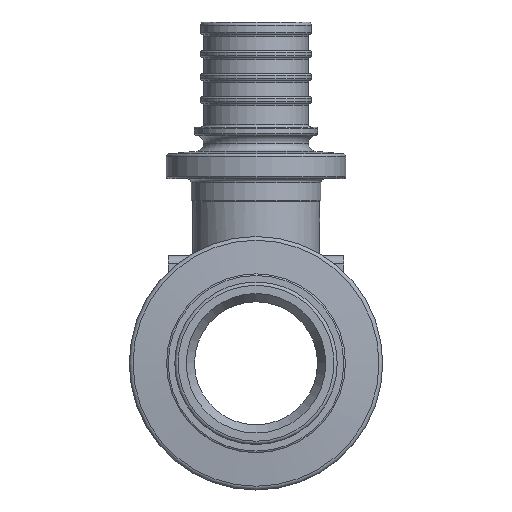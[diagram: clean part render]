
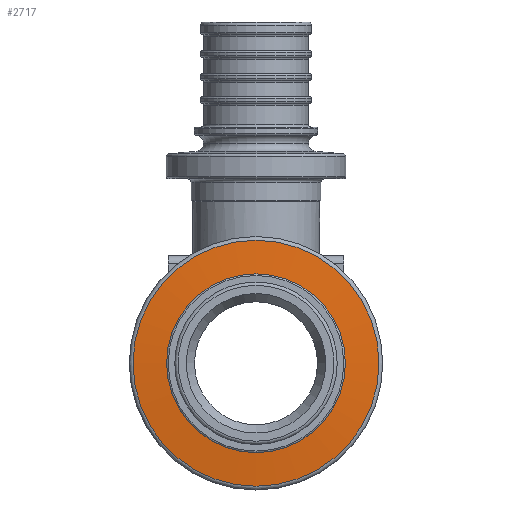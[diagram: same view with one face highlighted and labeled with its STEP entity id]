
A CAD part, front view. The second image highlights one B-rep face of the part: STEP entity #2717.
In plain terms, the highlighted conical face has half-angle 85 degrees and reference radius 12.653 mm.
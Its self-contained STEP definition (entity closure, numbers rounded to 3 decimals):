
#2717=ADVANCED_FACE('',(#5959,#5961),#5963,.T.);
#5959=FACE_OUTER_BOUND('',#5960,.T.);
#5960=EDGE_LOOP('',(#8930));
#5961=FACE_OUTER_BOUND('',#5962,.T.);
#5962=EDGE_LOOP('',(#8931));
#5963=CONICAL_SURFACE('',#5964,12.653,1.484);
#5964=AXIS2_PLACEMENT_3D('',#5965,#5966,#5967);
#5965=CARTESIAN_POINT('',(0.,-21.995,0.));
#5966=DIRECTION('',(0.,1.,0.));
#5967=DIRECTION('',(1.,0.,0.));
#8930=ORIENTED_EDGE('',*,*,#9983,.T.);
#8931=ORIENTED_EDGE('',*,*,#9980,.T.);
#9980=EDGE_CURVE('',#11444,#11444,#11445,.T.);
#9983=EDGE_CURVE('',#11450,#11450,#11451,.F.);
#11444=VERTEX_POINT('',#15324);
#11445=CIRCLE('',#15325,14.994);
#11450=VERTEX_POINT('',#15339);
#11451=CIRCLE('',#15340,10.313);
#15324=CARTESIAN_POINT('',(-14.994,-21.79,0.));
#15325=AXIS2_PLACEMENT_3D('',#15326,#15327,#15328);
#15326=CARTESIAN_POINT('',(0.,-21.79,0.));
#15327=DIRECTION('',(0.,-1.,0.));
#15328=DIRECTION('',(-1.,0.,0.));
#15339=CARTESIAN_POINT('',(-10.313,-22.199,0.));
#15340=AXIS2_PLACEMENT_3D('',#15341,#15342,#15343);
#15341=CARTESIAN_POINT('',(0.,-22.199,0.));
#15342=DIRECTION('',(0.,-1.,0.));
#15343=DIRECTION('',(-1.,0.,0.));
